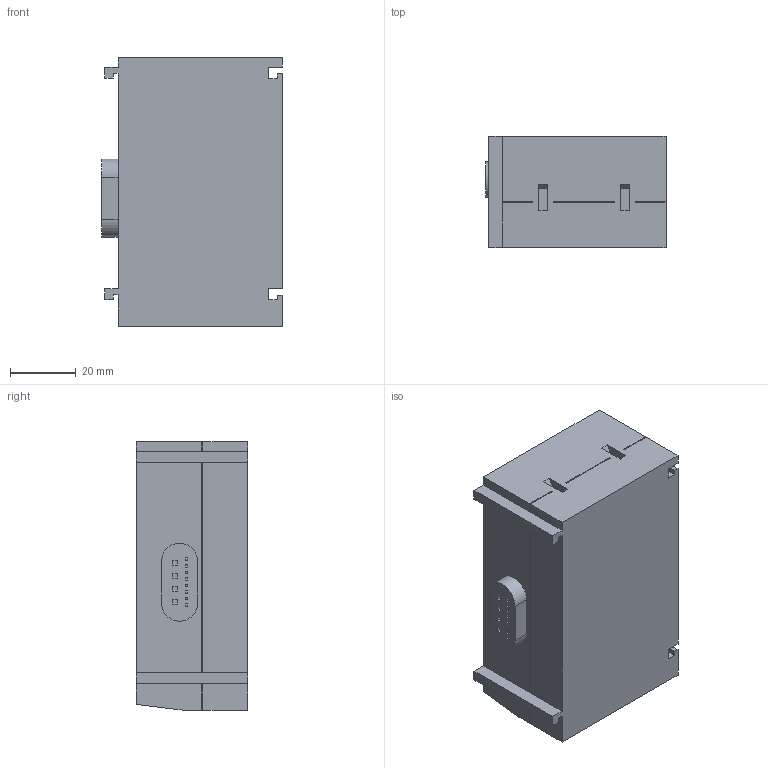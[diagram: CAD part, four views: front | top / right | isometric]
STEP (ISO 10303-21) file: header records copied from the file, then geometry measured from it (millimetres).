
FILE_DESCRIPTION((''),'2;1');
FILE_NAME('R412018269','2021-02-05T18:40:02',('PDH2HC'),(''),'CREO PARAMETRIC BY PTC INC, 2020044','CREO PARAMETRIC BY PTC INC, 2020044','');
FILE_SCHEMA(('AUTOMOTIVE_DESIGN { 1 0 10303 214 1 1 1 1 }'));
Length unit declared in the file: millimetre
Products named in the file (1): R412018269
Bounding box: 55.1 x 34 x 82 mm (x, y, z)
Volume: 124676.5 mm3; surface area: 35258.3 mm2
Topology: 1 solids, 1 shells, 438 faces, 1025 edges, 674 vertices
Faces by surface type: plane 268, cylinder 154, cone 16
Entity records: 12866 total; most frequent: DIRECTION 2287, CARTESIAN_POINT 2170, ORIENTED_EDGE 2050, EDGE_CURVE 1025, AXIS2_PLACEMENT_3D 793, VECTOR 701, LINE 701, VERTEX_POINT 674
